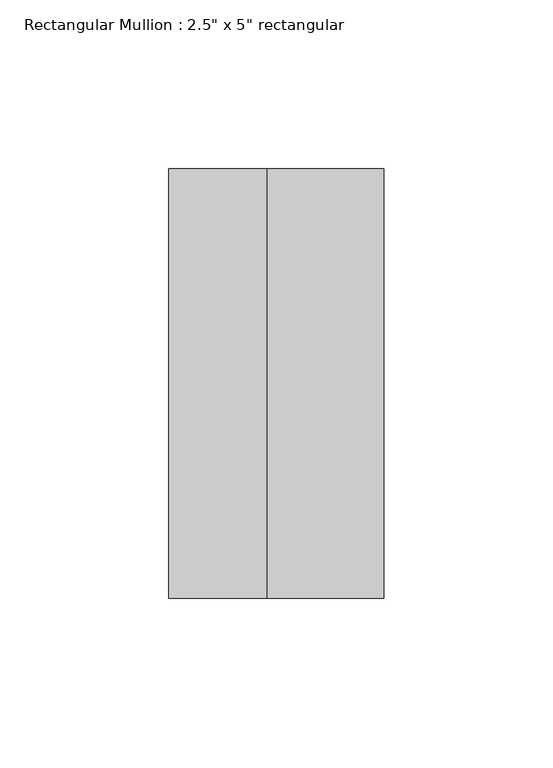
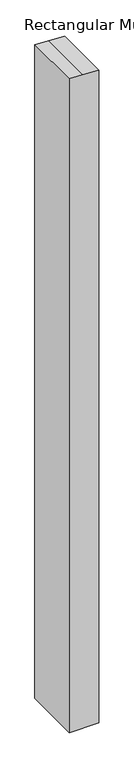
"""IFC4 building model written with IfcOpenShell, lengths in millimetres: member geometry."""

from ifc_helpers import new_model, si_unit, frame, origin, place, context, project, spatial, polyline, outline, extrude, source, transform, mapped, element, save


def member_4e2f7fd9(model_context):
    return source(origin(), model_context, "Body", "SweptSolid", [
        extrude(outline(polyline([(-64.8775557, 31.75), (-63.4449853, -2.6426951), (-62.232569, -31.75), (-1539.2879787, -31.75), (-1539.2879787, 31.75), (-64.8775557, 31.75)])), frame((0.0, -63.5, 0.0), z_axis=(0.0, 1.0, 0.0), x_axis=(0.0, 0.0, 1.0)), (0.0, 0.0, 1.0), 127.0),
    ])


if __name__ == "__main__":
    model = new_model("IFC4")
    model_context = context("Model", 3, world=origin())
    ifc_project = project(units=[si_unit("LENGTHUNIT", "METRE", prefix="MILLI")], contexts=[model_context])
    site = spatial("IfcSite", under=ifc_project)
    building = spatial("IfcBuilding", under=site)
    placement = place(None, origin())
    member_shape = member_4e2f7fd9(model_context)
    element("IfcMember", 1, ObjectType="Rectangular Mullion : 2.5\" x 5\" rectangular", at=placement, inside=building, context=model_context, shape_type="MappedRepresentation", body=[
        mapped(member_shape, transform((0.0, 0.0, 0.0), x_axis=(1.0, 0.0, 0.0), y_axis=(0.0, 1.0, 0.0), z_axis=(0.0, 0.0, 1.0))),
    ])
    save(model, "model.ifc")
